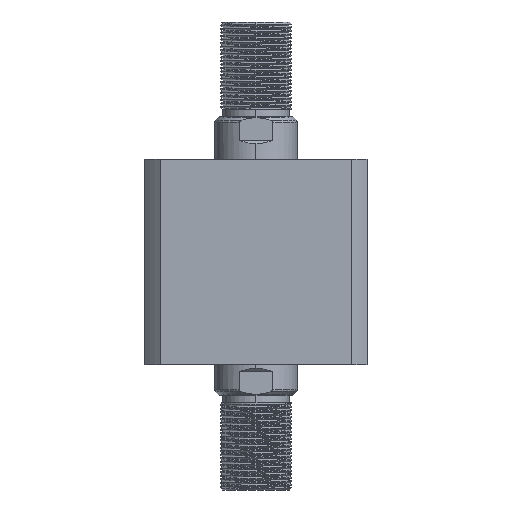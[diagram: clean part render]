
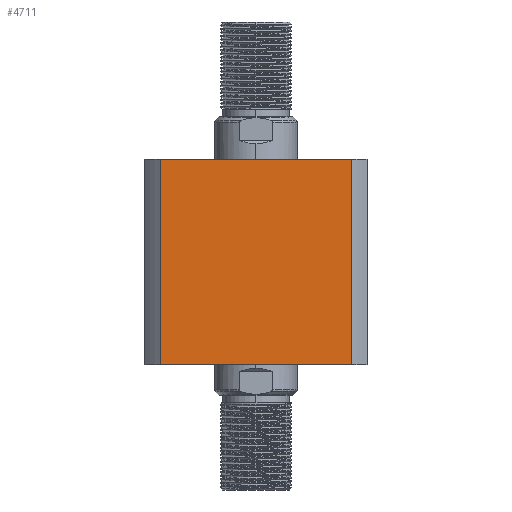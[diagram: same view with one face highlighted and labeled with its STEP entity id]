
A CAD part, left-side view. The second image highlights one B-rep face of the part: STEP entity #4711.
In plain terms, the highlighted planar face has unit normal (-1, 0, 0).
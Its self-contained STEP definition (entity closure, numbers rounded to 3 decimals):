
#378 = CARTESIAN_POINT ( 'NONE',  ( -47., 40.435, 0. ) ) ;
#513 = FACE_OUTER_BOUND ( 'NONE', #8559, .T. ) ;
#2038 = LINE ( 'NONE', #5562, #12688 ) ;
#2115 = PLANE ( 'NONE',  #6339 ) ;
#2312 = ORIENTED_EDGE ( 'NONE', *, *, #11482, .F. ) ;
#4229 = CARTESIAN_POINT ( 'NONE',  ( -47., 47., 87. ) ) ;
#4711 = ADVANCED_FACE ( 'NONE', ( #513 ), #2115, .F. ) ;
#4733 = CARTESIAN_POINT ( 'NONE',  ( -47., 47., 0. ) ) ;
#5201 = CARTESIAN_POINT ( 'NONE',  ( -47., 40.435, 87. ) ) ;
#5562 = CARTESIAN_POINT ( 'NONE',  ( -47., 47., 87. ) ) ;
#6339 = AXIS2_PLACEMENT_3D ( 'NONE', #4229, #6378, #21268 ) ;
#6378 = DIRECTION ( 'NONE',  ( 1., 0., 0. ) ) ;
#8559 = EDGE_LOOP ( 'NONE', ( #16907, #11663, #2312, #18998 ) ) ;
#9889 = VERTEX_POINT ( 'NONE', #25523 ) ;
#10489 = LINE ( 'NONE', #25297, #12511 ) ;
#11118 = EDGE_CURVE ( 'NONE', #13658, #9889, #2038, .T. ) ;
#11313 = VECTOR ( 'NONE', #15458, 1000. ) ;
#11482 = EDGE_CURVE ( 'NONE', #14669, #13658, #27045, .T. ) ;
#11663 = ORIENTED_EDGE ( 'NONE', *, *, #11118, .F. ) ;
#12511 = VECTOR ( 'NONE', #23134, 1000. ) ;
#12688 = VECTOR ( 'NONE', #20647, 1000. ) ;
#13658 = VERTEX_POINT ( 'NONE', #5201 ) ;
#14081 = EDGE_CURVE ( 'NONE', #9889, #16270, #10489, .T. ) ;
#14669 = VERTEX_POINT ( 'NONE', #378 ) ;
#14701 = EDGE_CURVE ( 'NONE', #14669, #16270, #16992, .T. ) ;
#15458 = DIRECTION ( 'NONE',  ( 0., -1., 0. ) ) ;
#15714 = VECTOR ( 'NONE', #18285, 1000. ) ;
#16163 = CARTESIAN_POINT ( 'NONE',  ( -47., 40.435, 300. ) ) ;
#16270 = VERTEX_POINT ( 'NONE', #27398 ) ;
#16907 = ORIENTED_EDGE ( 'NONE', *, *, #14081, .F. ) ;
#16992 = LINE ( 'NONE', #4733, #11313 ) ;
#18285 = DIRECTION ( 'NONE',  ( 0., 0., 1. ) ) ;
#18998 = ORIENTED_EDGE ( 'NONE', *, *, #14701, .T. ) ;
#20647 = DIRECTION ( 'NONE',  ( 0., -1., 0. ) ) ;
#21268 = DIRECTION ( 'NONE',  ( 0., 1., 0. ) ) ;
#23134 = DIRECTION ( 'NONE',  ( 0., 0., -1. ) ) ;
#25297 = CARTESIAN_POINT ( 'NONE',  ( -47., -40.435, 300. ) ) ;
#25523 = CARTESIAN_POINT ( 'NONE',  ( -47., -40.435, 87. ) ) ;
#27045 = LINE ( 'NONE', #16163, #15714 ) ;
#27398 = CARTESIAN_POINT ( 'NONE',  ( -47., -40.435, 0. ) ) ;
